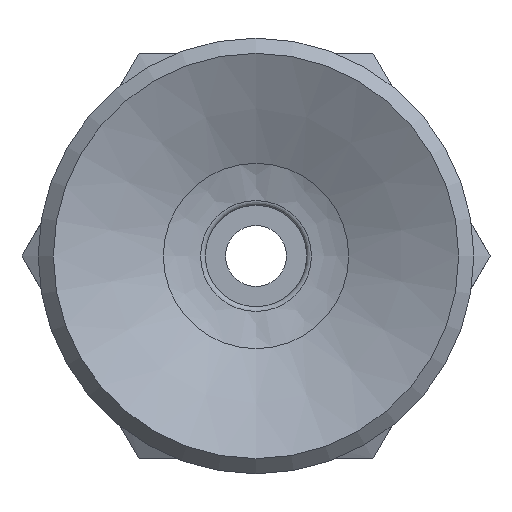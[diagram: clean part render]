
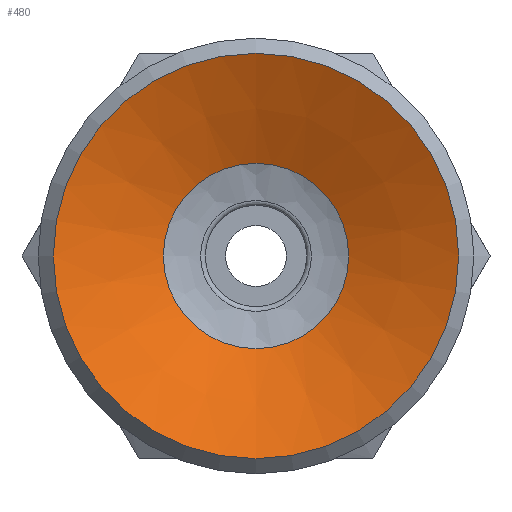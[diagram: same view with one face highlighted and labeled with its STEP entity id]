
A CAD part, front view. The second image highlights one B-rep face of the part: STEP entity #480.
In plain terms, the highlighted conical face has half-angle 65 degrees and reference radius 1.427 mm.
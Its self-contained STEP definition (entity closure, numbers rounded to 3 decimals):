
#480=ADVANCED_FACE('',(#693,#694),#695,.F.);
#693=FACE_BOUND('',#927,.T.);
#694=FACE_OUTER_BOUND('',#928,.T.);
#695=CONICAL_SURFACE('',#929,1.427,1.134);
#927=EDGE_LOOP('',(#1537));
#928=EDGE_LOOP('',(#1538));
#929=AXIS2_PLACEMENT_3D('',#1539,#1540,#1541);
#1537=ORIENTED_EDGE('',*,*,#1739,.T.);
#1538=ORIENTED_EDGE('',*,*,#1732,.T.);
#1539=CARTESIAN_POINT('',(0.0,7.096,0.));
#1540=DIRECTION('',(-0.0,-1.0,0.));
#1541=DIRECTION('',(0.0,0.,-1.0));
#1732=EDGE_CURVE('',#1984,#1984,#1985,.T.);
#1739=EDGE_CURVE('',#1998,#1998,#1999,.T.);
#1984=VERTEX_POINT('',#2552);
#1985=CIRCLE('',#2553,4.0);
#1998=VERTEX_POINT('',#2566);
#1999=CIRCLE('',#2567,1.828);
#2552=CARTESIAN_POINT('',(0.0,5.896,-4.0));
#2553=AXIS2_PLACEMENT_3D('',#2792,#2793,#2794);
#2566=CARTESIAN_POINT('',(0.0,6.909,-1.828));
#2567=AXIS2_PLACEMENT_3D('',#2813,#2814,#2815);
#2792=CARTESIAN_POINT('',(0.0,5.896,0.0));
#2793=DIRECTION('',(0.0,-1.0,0.));
#2794=DIRECTION('',(0.0,0.,-1.0));
#2813=CARTESIAN_POINT('',(0.0,6.909,0.0));
#2814=DIRECTION('',(0.0,1.0,0.));
#2815=DIRECTION('',(0.0,0.,-1.0));
